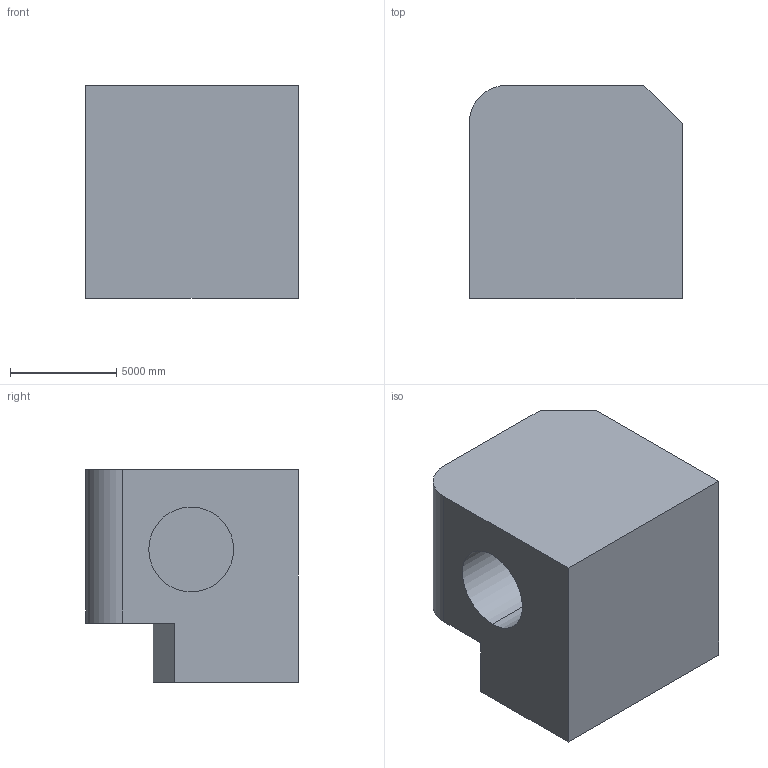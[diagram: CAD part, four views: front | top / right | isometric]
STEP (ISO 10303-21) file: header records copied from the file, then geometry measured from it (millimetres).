
FILE_DESCRIPTION (( 'STEP AP203' ), '1' );
FILE_NAME ('1364.STEP', '2022-08-18T14:03:31', ( 'user' ), ( '' ), 'SwSTEP 2.0', 'SolidWorks 2021', '' );
FILE_SCHEMA (( 'CONFIG_CONTROL_DESIGN' ));
Length unit declared in the file: centimetre
Products named in the file (1): 1364
Bounding box: 10000 x 10000 x 10000 mm (x, y, z)
Volume: 797206690474.6 mm3; surface area: 646122075.1 mm2
Topology: 1 solids, 1 shells, 13 faces, 30 edges, 20 vertices
Faces by surface type: plane 10, cylinder 3
Entity records: 447 total; most frequent: DIRECTION 64, CARTESIAN_POINT 64, ORIENTED_EDGE 60, EDGE_CURVE 30, VECTOR 24, LINE 24, VERTEX_POINT 20, AXIS2_PLACEMENT_3D 20
